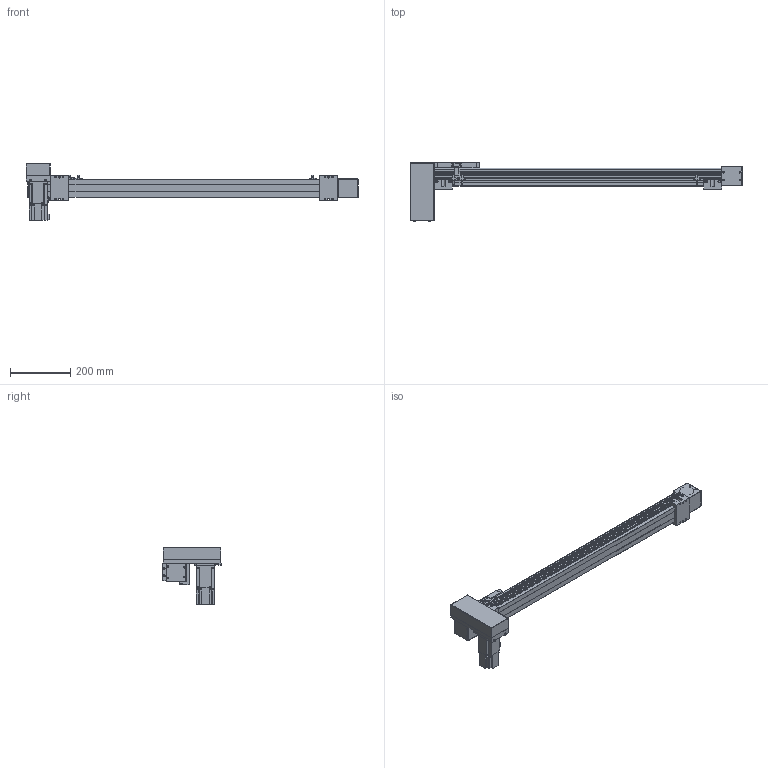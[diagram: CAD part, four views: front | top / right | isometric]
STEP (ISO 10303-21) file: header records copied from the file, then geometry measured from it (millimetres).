
FILE_DESCRIPTION(/* description */ ('STEP AP214'),/* implementation_level */ '2;1');
FILE_NAME(/* name */ 'SK60-P13-S800-RD-T40-C1-N(0)',/* time_stamp */ '2023-04-06T04:55:27+02:00',/* author */ ('License CC BY-ND 4.0'),/* organization */ ('CADENAS'),/* preprocessor_version */ 'ST-DEVELOPER v19.3',/* originating_system */ 'PARTsolutions',/* authorisation */ ' ');
FILE_SCHEMA (('AUTOMOTIVE_DESIGN {1 0 10303 214 3 1 1}'));
Length unit declared in the file: millimetre
Products named in the file (10): SK60-P13-S800-RD-T40-C1-N(0); PSC140-sensor; SK60-S450_seat; SK60-S450-BL-C1_slider; SK60_body3; SK60_body6; SK60-BL_body2; T40-p1; SK60-RD_fb; SK60-S800-RD-C1_body
Assembly tree (16 placements, depth 2):
  SK60-P13-S800-RD-T40-C1-N(0)
    PSC140-sensor  x3
    SK60-S450_seat  x2
    SK60-S450-BL-C1_slider
    SK60_body3  x3
    SK60_body6  x2
    SK60-BL_body2  x2
    T40-p1
    SK60-RD_fb
    SK60-S800-RD-C1_body
Bounding box: 1105.5 x 199 x 189.7 mm (x, y, z)
Volume: 4943048.5 mm3; surface area: 629892.5 mm2
Topology: 16 solids, 16 shells, 810 faces, 2048 edges, 1349 vertices
Faces by surface type: plane 524, cylinder 262, cone 22, torus 2
Full cylindrical faces by diameter (mm): 2.8 x3, 3.3 x4, 4 x2, 4.5 x30, 4.6 x3, 4.917 x16, 5 x6, 5.478 x4, 5.5 x19, 6.5 x4, 7 x2, 8 x4, 8.5 x4, 9.988 x4, 10 x8, 14 x1, 47 x3, 50 x2
Entity records: 18655 total; most frequent: DIRECTION 3184, CARTESIAN_POINT 3150, ORIENTED_EDGE 2940, EDGE_CURVE 1470, AXIS2_PLACEMENT_3D 1068, LINE 1048, VECTOR 1048, VERTEX_POINT 1034
